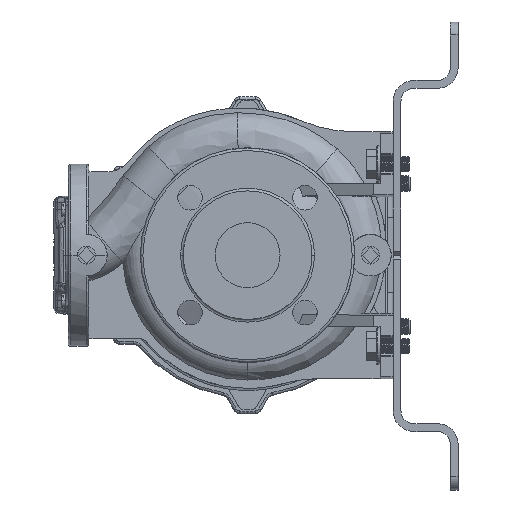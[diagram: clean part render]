
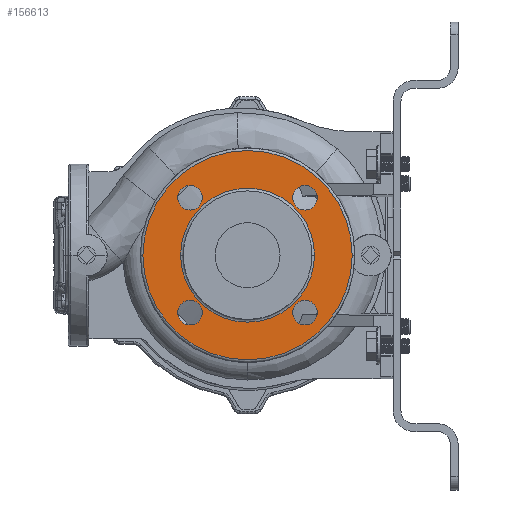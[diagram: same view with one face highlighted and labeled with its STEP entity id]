
A CAD part, left-side view. The second image highlights one B-rep face of the part: STEP entity #156613.
In plain terms, the highlighted planar face has unit normal (-1, 0, 0).
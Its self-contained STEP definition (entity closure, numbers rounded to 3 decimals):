
#3940 = AXIS2_PLACEMENT_3D ( 'NONE', #125264, #179231, #181047 ) ;
#7207 = VERTEX_POINT ( 'NONE', #97834 ) ;
#8318 = DIRECTION ( 'NONE',  ( -1., 0., 0. ) ) ;
#8393 = EDGE_LOOP ( 'NONE', ( #141121, #26176 ) ) ;
#10322 = CARTESIAN_POINT ( 'NONE',  ( -78., 0., 0. ) ) ;
#11231 = VERTEX_POINT ( 'NONE', #35470 ) ;
#14207 = CARTESIAN_POINT ( 'NONE',  ( -78., 44.194, -44.194 ) ) ;
#15853 = CIRCLE ( 'NONE', #144454, 9.5 ) ;
#18621 = CARTESIAN_POINT ( 'NONE',  ( -78., -44.194, 44.194 ) ) ;
#18908 = CARTESIAN_POINT ( 'NONE',  ( -78., 0., 0. ) ) ;
#19457 = CIRCLE ( 'NONE', #51561, 9.5 ) ;
#22131 = DIRECTION ( 'NONE',  ( -1., 0., 0. ) ) ;
#22213 = AXIS2_PLACEMENT_3D ( 'NONE', #71487, #169398, #127376 ) ;
#23922 = VERTEX_POINT ( 'NONE', #109505 ) ;
#26176 = ORIENTED_EDGE ( 'NONE', *, *, #108066, .T. ) ;
#26691 = VERTEX_POINT ( 'NONE', #151635 ) ;
#28070 = EDGE_CURVE ( 'NONE', #7207, #159496, #30971, .T. ) ;
#30067 = AXIS2_PLACEMENT_3D ( 'NONE', #135585, #22131, #145743 ) ;
#30325 = FACE_OUTER_BOUND ( 'NONE', #8393, .T. ) ;
#30971 = CIRCLE ( 'NONE', #22213, 9.5 ) ;
#33036 = ORIENTED_EDGE ( 'NONE', *, *, #116042, .F. ) ;
#35470 = CARTESIAN_POINT ( 'NONE',  ( -78., 51.5, 0. ) ) ;
#38609 = CIRCLE ( 'NONE', #62002, 80.5 ) ;
#38949 = CARTESIAN_POINT ( 'NONE',  ( -78., -51.5, 0. ) ) ;
#44038 = PLANE ( 'NONE',  #103605 ) ;
#45516 = VERTEX_POINT ( 'NONE', #135541 ) ;
#46559 = CARTESIAN_POINT ( 'NONE',  ( -78., 0., 0. ) ) ;
#48695 = VERTEX_POINT ( 'NONE', #167816 ) ;
#51561 = AXIS2_PLACEMENT_3D ( 'NONE', #133714, #8318, #119975 ) ;
#51692 = DIRECTION ( 'NONE',  ( 0., 0., 1. ) ) ;
#52202 = DIRECTION ( 'NONE',  ( 0., 1., 0. ) ) ;
#52936 = AXIS2_PLACEMENT_3D ( 'NONE', #177604, #121806, #52202 ) ;
#54912 = EDGE_CURVE ( 'NONE', #85217, #147407, #175766, .T. ) ;
#55044 = CARTESIAN_POINT ( 'NONE',  ( -78., 51.5, 0. ) ) ;
#56868 = FACE_BOUND ( 'NONE', #98991, .T. ) ;
#60208 = VERTEX_POINT ( 'NONE', #168608 ) ;
#62002 = AXIS2_PLACEMENT_3D ( 'NONE', #18908, #119536, #115936 ) ;
#67002 = DIRECTION ( 'NONE',  ( -1., 0., 0. ) ) ;
#67284 = DIRECTION ( 'NONE',  ( -1., 0., 0. ) ) ;
#68019 = VERTEX_POINT ( 'NONE', #146491 ) ;
#71201 = CIRCLE ( 'NONE', #3940, 9.5 ) ;
#71487 = CARTESIAN_POINT ( 'NONE',  ( -78., 44.194, 44.194 ) ) ;
#72699 = EDGE_CURVE ( 'NONE', #26691, #48695, #161538, .T. ) ;
#77218 = AXIS2_PLACEMENT_3D ( 'NONE', #96607, #111282, #153404 ) ;
#83404 = FACE_BOUND ( 'NONE', #144258, .T. ) ;
#83506 = ORIENTED_EDGE ( 'NONE', *, *, #144386, .F. ) ;
#85217 = VERTEX_POINT ( 'NONE', #126191 ) ;
#85294 = EDGE_LOOP ( 'NONE', ( #83506, #151328 ) ) ;
#87699 = ORIENTED_EDGE ( 'NONE', *, *, #28070, .F. ) ;
#88140 = DIRECTION ( 'NONE',  ( -1., 0., 0. ) ) ;
#88512 = AXIS2_PLACEMENT_3D ( 'NONE', #14207, #67284, #136886 ) ;
#88656 = DIRECTION ( 'NONE',  ( -1., 0., 0. ) ) ;
#91761 = ORIENTED_EDGE ( 'NONE', *, *, #150208, .F. ) ;
#94667 = VERTEX_POINT ( 'NONE', #38949 ) ;
#95282 = ORIENTED_EDGE ( 'NONE', *, *, #72699, .F. ) ;
#96607 = CARTESIAN_POINT ( 'NONE',  ( -78., -44.194, 44.194 ) ) ;
#97138 = DIRECTION ( 'NONE',  ( 0., 1., 0. ) ) ;
#97834 = CARTESIAN_POINT ( 'NONE',  ( -78., 34.694, 44.194 ) ) ;
#98991 = EDGE_LOOP ( 'NONE', ( #87699, #33036 ) ) ;
#99587 = ORIENTED_EDGE ( 'NONE', *, *, #124415, .F. ) ;
#100295 = CIRCLE ( 'NONE', #170437, 80.5 ) ;
#100318 = ORIENTED_EDGE ( 'NONE', *, *, #178969, .F. ) ;
#101109 = CARTESIAN_POINT ( 'NONE',  ( -78., 53.694, 44.194 ) ) ;
#101257 = AXIS2_PLACEMENT_3D ( 'NONE', #46559, #88656, #144539 ) ;
#103605 = AXIS2_PLACEMENT_3D ( 'NONE', #55044, #166698, #97138 ) ;
#105963 = EDGE_CURVE ( 'NONE', #60208, #45516, #38609, .T. ) ;
#108066 = EDGE_CURVE ( 'NONE', #45516, #60208, #100295, .T. ) ;
#109505 = CARTESIAN_POINT ( 'NONE',  ( -78., -34.694, 44.194 ) ) ;
#111282 = DIRECTION ( 'NONE',  ( -1., 0., 0. ) ) ;
#111807 = FACE_BOUND ( 'NONE', #128483, .T. ) ;
#112721 = FACE_BOUND ( 'NONE', #162112, .T. ) ;
#115004 = CIRCLE ( 'NONE', #132538, 9.5 ) ;
#115491 = EDGE_CURVE ( 'NONE', #94667, #11231, #158746, .T. ) ;
#115936 = DIRECTION ( 'NONE',  ( 0., -1., 0. ) ) ;
#116042 = EDGE_CURVE ( 'NONE', #159496, #7207, #71201, .T. ) ;
#119536 = DIRECTION ( 'NONE',  ( -1., 0., 0. ) ) ;
#119975 = DIRECTION ( 'NONE',  ( 0., 1., 0. ) ) ;
#121806 = DIRECTION ( 'NONE',  ( -1., 0., 0. ) ) ;
#124415 = EDGE_CURVE ( 'NONE', #147407, #85217, #19457, .T. ) ;
#125264 = CARTESIAN_POINT ( 'NONE',  ( -78., 44.194, 44.194 ) ) ;
#126191 = CARTESIAN_POINT ( 'NONE',  ( -78., -34.694, -44.194 ) ) ;
#127376 = DIRECTION ( 'NONE',  ( 0., -1., 0. ) ) ;
#128483 = EDGE_LOOP ( 'NONE', ( #99587, #177708 ) ) ;
#132538 = AXIS2_PLACEMENT_3D ( 'NONE', #18621, #88140, #170546 ) ;
#133714 = CARTESIAN_POINT ( 'NONE',  ( -78., -44.194, -44.194 ) ) ;
#133907 = DIRECTION ( 'NONE',  ( 0., -1., 0. ) ) ;
#135541 = CARTESIAN_POINT ( 'NONE',  ( -78., 80.5, 0. ) ) ;
#135585 = CARTESIAN_POINT ( 'NONE',  ( -78., 0., 0. ) ) ;
#136886 = DIRECTION ( 'NONE',  ( 0., 0., 1. ) ) ;
#141121 = ORIENTED_EDGE ( 'NONE', *, *, #105963, .T. ) ;
#141223 = CARTESIAN_POINT ( 'NONE',  ( -78., -53.694, -44.194 ) ) ;
#142663 = EDGE_CURVE ( 'NONE', #23922, #68019, #115004, .T. ) ;
#144258 = EDGE_LOOP ( 'NONE', ( #167360, #91761 ) ) ;
#144386 = EDGE_CURVE ( 'NONE', #68019, #23922, #156168, .T. ) ;
#144454 = AXIS2_PLACEMENT_3D ( 'NONE', #151444, #177085, #51692 ) ;
#144539 = DIRECTION ( 'NONE',  ( 0., -1., 0. ) ) ;
#145743 = DIRECTION ( 'NONE',  ( 0., -1., 0. ) ) ;
#146491 = CARTESIAN_POINT ( 'NONE',  ( -78., -53.694, 44.194 ) ) ;
#147407 = VERTEX_POINT ( 'NONE', #141223 ) ;
#150208 = EDGE_CURVE ( 'NONE', #11231, #94667, #165516, .T. ) ;
#151328 = ORIENTED_EDGE ( 'NONE', *, *, #142663, .F. ) ;
#151444 = CARTESIAN_POINT ( 'NONE',  ( -78., 44.194, -44.194 ) ) ;
#151635 = CARTESIAN_POINT ( 'NONE',  ( -78., 34.694, -44.194 ) ) ;
#153009 = FACE_BOUND ( 'NONE', #85294, .T. ) ;
#153404 = DIRECTION ( 'NONE',  ( 0., 0., -1. ) ) ;
#156168 = CIRCLE ( 'NONE', #77218, 9.5 ) ;
#156613 = ADVANCED_FACE ( 'NONE', ( #153009, #111807, #112721, #56868, #83404, #30325 ), #44038, .F. ) ;
#158746 = CIRCLE ( 'NONE', #30067, 51.5 ) ;
#159496 = VERTEX_POINT ( 'NONE', #101109 ) ;
#161538 = CIRCLE ( 'NONE', #88512, 9.5 ) ;
#162112 = EDGE_LOOP ( 'NONE', ( #95282, #100318 ) ) ;
#165516 = CIRCLE ( 'NONE', #101257, 51.5 ) ;
#166698 = DIRECTION ( 'NONE',  ( 1., 0., 0. ) ) ;
#167360 = ORIENTED_EDGE ( 'NONE', *, *, #115491, .F. ) ;
#167816 = CARTESIAN_POINT ( 'NONE',  ( -78., 53.694, -44.194 ) ) ;
#168608 = CARTESIAN_POINT ( 'NONE',  ( -78., -80.5, 0. ) ) ;
#169398 = DIRECTION ( 'NONE',  ( -1., 0., 0. ) ) ;
#170437 = AXIS2_PLACEMENT_3D ( 'NONE', #10322, #67002, #133907 ) ;
#170546 = DIRECTION ( 'NONE',  ( 0., 0., -1. ) ) ;
#175766 = CIRCLE ( 'NONE', #52936, 9.5 ) ;
#177085 = DIRECTION ( 'NONE',  ( -1., 0., 0. ) ) ;
#177604 = CARTESIAN_POINT ( 'NONE',  ( -78., -44.194, -44.194 ) ) ;
#177708 = ORIENTED_EDGE ( 'NONE', *, *, #54912, .F. ) ;
#178969 = EDGE_CURVE ( 'NONE', #48695, #26691, #15853, .T. ) ;
#179231 = DIRECTION ( 'NONE',  ( -1., 0., 0. ) ) ;
#181047 = DIRECTION ( 'NONE',  ( 0., -1., 0. ) ) ;
